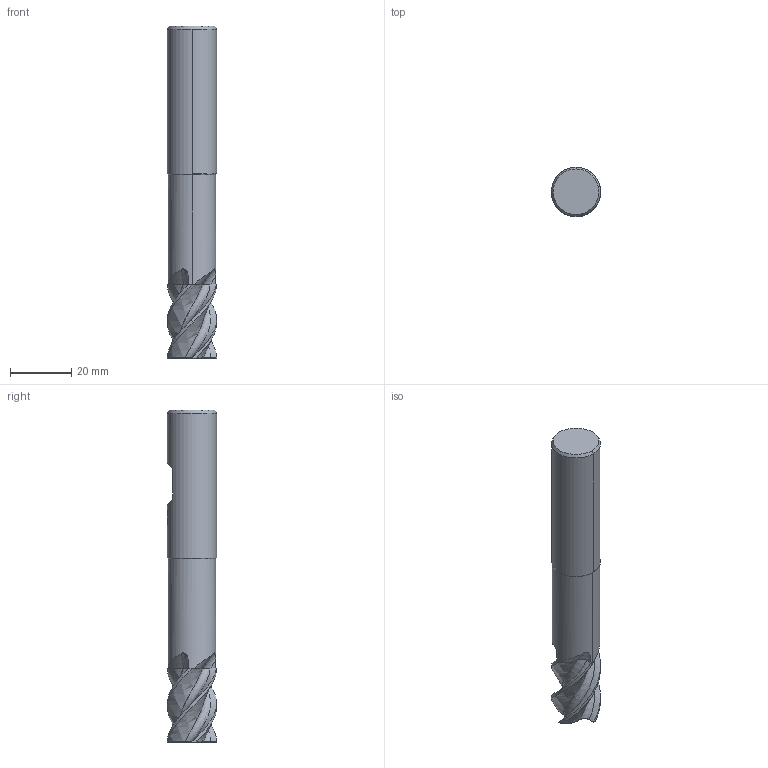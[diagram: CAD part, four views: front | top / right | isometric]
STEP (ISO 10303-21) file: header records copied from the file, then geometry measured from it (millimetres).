
FILE_DESCRIPTION(('no description'),'unknown implementation level');
FILE_NAME('solidDNTGglCr4rqvODQMNVyUKsWn96w_1.STP',' ',('CIMSOURCE GmbH'),('CADClick - KiM GmbH - www.kimweb.de'),'unknown preprocess','ACIS','unknown authorization');
FILE_SCHEMA(('automotive_design'));
Length unit declared in the file: millimetre
Products named in the file (2): NOCUT; CUT
Bounding box: 16 x 16 x 108 mm (x, y, z)
Volume: 18731.5 mm3; surface area: 7272.7 mm2
Topology: 2 solids, 2 shells, 125 faces, 354 edges, 232 vertices
Faces by surface type: bspline 48, plane 27, cone 22, cylinder 16, revolution 12
Entity records: 25132 total; most frequent: CARTESIAN_POINT 18369, STYLED_ITEM 713, PRESENTATION_STYLE_ASSIGNMENT 713, COLOUR_RGB 713, ORIENTED_EDGE 708, DIRECTION 396, EDGE_CURVE 354, CURVE_STYLE 354
